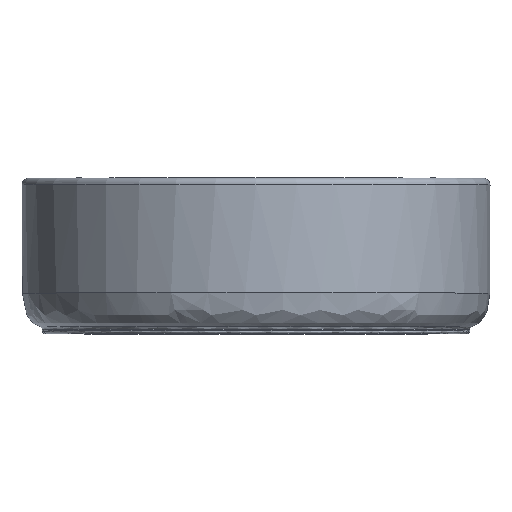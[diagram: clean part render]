
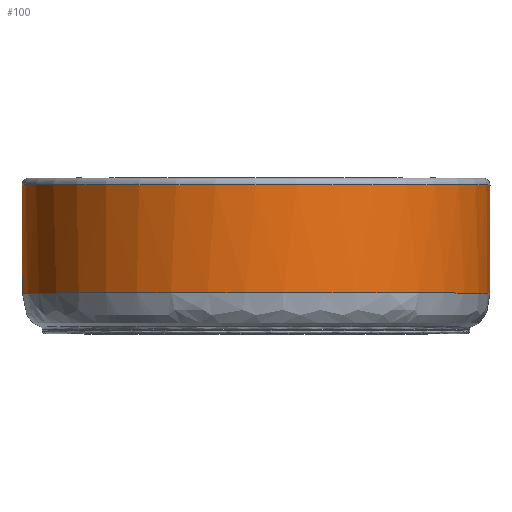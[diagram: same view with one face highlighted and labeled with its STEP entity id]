
A CAD part, top view. The second image highlights one B-rep face of the part: STEP entity #100.
In plain terms, the highlighted cylindrical face has radius 173 mm (diameter 346 mm), a full revolution.
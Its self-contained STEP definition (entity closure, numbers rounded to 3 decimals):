
#12 = CARTESIAN_POINT ( 'NONE',  ( -171.885, 29., 22.645 ) ) ;
#35 = VERTEX_POINT ( 'NONE', #608 ) ;
#47 = CARTESIAN_POINT ( 'NONE',  ( -11.323, 29., 173. ) ) ;
#73 = CARTESIAN_POINT ( 'NONE',  ( 167.467, 29., 44.856 ) ) ;
#85 = CARTESIAN_POINT ( 'NONE',  ( 114.323, 29., 130.336 ) ) ;
#86 = B_SPLINE_CURVE_WITH_KNOTS ( 'NONE', 3,
 ( #813, #965, #2324, #2297, #1392, #2487, #1583, #368, #620, #200, #392, #2109, #584, #380, #1734, #1167, #1931, #1748, #12, #791, #826, #479, #1254, #864, #426, #1202, #1443, #1634, #2182, #1969, #2395, #237, #47, #2165, #1215, #1608, #2368, #1431, #645, #452, #85, #671, #1039, #1994, #264, #1807, #73, #1622, #2382, #2196, #2209, #890, #149, #137, #1658, #125, #2472, #914, #1857, #2422, #724, #712, #1493, #160, #2257, #1115 ),
 .UNSPECIFIED., .T., .F.,
 ( 4, 2, 2, 2, 2, 2, 2, 2, 2, 2, 2, 2, 2, 2, 2, 2, 2, 2, 2, 2, 2, 2, 2, 2, 2, 2, 2, 2, 2, 2, 2, 2, 4 ),
 ( 0., 0.031, 0.063, 0.094, 0.125, 0.156, 0.188, 0.219, 0.25, 0.281, 0.313, 0.344, 0.375, 0.406, 0.437, 0.469, 0.5, 0.531, 0.562, 0.594, 0.625, 0.656, 0.687, 0.719, 0.75, 0.781, 0.812, 0.844, 0.875, 0.906, 0.938, 0.969, 1. ),
 .UNSPECIFIED. ) ;
#100 = ADVANCED_FACE ( 'NONE', ( #2407, #684 ), #1279, .T. ) ;
#112 = DIRECTION ( 'NONE',  ( 0., -1., 0. ) ) ;
#125 = CARTESIAN_POINT ( 'NONE',  ( 137.554, 29., -105.528 ) ) ;
#137 = CARTESIAN_POINT ( 'NONE',  ( 155.498, 29., -76.665 ) ) ;
#149 = CARTESIAN_POINT ( 'NONE',  ( 164.164, 29., -55.743 ) ) ;
#160 = CARTESIAN_POINT ( 'NONE',  ( 22.645, 29., -171.885 ) ) ;
#200 = CARTESIAN_POINT ( 'NONE',  ( -130.336, 29., -114.323 ) ) ;
#237 = CARTESIAN_POINT ( 'NONE',  ( -22.645, 29., 171.885 ) ) ;
#238 = CARTESIAN_POINT ( 'NONE',  ( 0., 109., 173. ) ) ;
#264 = CARTESIAN_POINT ( 'NONE',  ( 155.498, 29., 76.665 ) ) ;
#368 = CARTESIAN_POINT ( 'NONE',  ( -105.528, 29., -137.554 ) ) ;
#380 = CARTESIAN_POINT ( 'NONE',  ( -164.164, 29., -55.743 ) ) ;
#392 = CARTESIAN_POINT ( 'NONE',  ( -137.554, 29., -105.528 ) ) ;
#406 = CARTESIAN_POINT ( 'NONE',  ( 0., 109., 0. ) ) ;
#426 = CARTESIAN_POINT ( 'NONE',  ( -130.336, 29., 114.323 ) ) ;
#452 = CARTESIAN_POINT ( 'NONE',  ( 105.528, 29., 137.554 ) ) ;
#479 = CARTESIAN_POINT ( 'NONE',  ( -155.498, 29., 76.665 ) ) ;
#584 = CARTESIAN_POINT ( 'NONE',  ( -155.498, 29., -76.665 ) ) ;
#608 = CARTESIAN_POINT ( 'NONE',  ( 0., 29., -173. ) ) ;
#620 = CARTESIAN_POINT ( 'NONE',  ( -114.323, 29., -130.336 ) ) ;
#645 = CARTESIAN_POINT ( 'NONE',  ( 86.699, 29., 150.135 ) ) ;
#671 = CARTESIAN_POINT ( 'NONE',  ( 130.336, 29., 114.323 ) ) ;
#684 = FACE_OUTER_BOUND ( 'NONE', #2421, .T. ) ;
#698 = ORIENTED_EDGE ( 'NONE', *, *, #953, .T. ) ;
#712 = CARTESIAN_POINT ( 'NONE',  ( 55.743, 29., -164.164 ) ) ;
#724 = CARTESIAN_POINT ( 'NONE',  ( 76.665, 29., -155.498 ) ) ;
#791 = CARTESIAN_POINT ( 'NONE',  ( -167.467, 29., 44.856 ) ) ;
#813 = CARTESIAN_POINT ( 'NONE',  ( 0., 29., -173. ) ) ;
#826 = CARTESIAN_POINT ( 'NONE',  ( -164.164, 29., 55.743 ) ) ;
#864 = CARTESIAN_POINT ( 'NONE',  ( -137.554, 29., 105.528 ) ) ;
#889 = DIRECTION ( 'NONE',  ( 0., 0., -1. ) ) ;
#890 = CARTESIAN_POINT ( 'NONE',  ( 167.467, 29., -44.856 ) ) ;
#902 = CARTESIAN_POINT ( 'NONE',  ( 0., 114., 0. ) ) ;
#914 = CARTESIAN_POINT ( 'NONE',  ( 114.323, 29., -130.336 ) ) ;
#953 = EDGE_CURVE ( 'NONE', #35, #35, #86, .T. ) ;
#965 = CARTESIAN_POINT ( 'NONE',  ( -11.323, 29., -173. ) ) ;
#978 = AXIS2_PLACEMENT_3D ( 'NONE', #406, #1784, #994 ) ;
#994 = DIRECTION ( 'NONE',  ( 0., 0., 1. ) ) ;
#1039 = CARTESIAN_POINT ( 'NONE',  ( 137.554, 29., 105.528 ) ) ;
#1077 = EDGE_CURVE ( 'NONE', #1393, #1393, #1380, .T. ) ;
#1096 = AXIS2_PLACEMENT_3D ( 'NONE', #902, #112, #889 ) ;
#1115 = CARTESIAN_POINT ( 'NONE',  ( 0., 29., -173. ) ) ;
#1167 = CARTESIAN_POINT ( 'NONE',  ( -171.885, 29., -22.645 ) ) ;
#1202 = CARTESIAN_POINT ( 'NONE',  ( -114.323, 29., 130.336 ) ) ;
#1215 = CARTESIAN_POINT ( 'NONE',  ( 22.645, 29., 171.885 ) ) ;
#1254 = CARTESIAN_POINT ( 'NONE',  ( -150.135, 29., 86.699 ) ) ;
#1279 = CYLINDRICAL_SURFACE ( 'NONE', #1096, 173. ) ;
#1380 = CIRCLE ( 'NONE', #978, 173. ) ;
#1392 = CARTESIAN_POINT ( 'NONE',  ( -55.743, 29., -164.164 ) ) ;
#1393 = VERTEX_POINT ( 'NONE', #238 ) ;
#1431 = CARTESIAN_POINT ( 'NONE',  ( 76.665, 29., 155.498 ) ) ;
#1443 = CARTESIAN_POINT ( 'NONE',  ( -105.528, 29., 137.554 ) ) ;
#1493 = CARTESIAN_POINT ( 'NONE',  ( 44.856, 29., -167.467 ) ) ;
#1583 = CARTESIAN_POINT ( 'NONE',  ( -86.699, 29., -150.135 ) ) ;
#1608 = CARTESIAN_POINT ( 'NONE',  ( 44.856, 29., 167.467 ) ) ;
#1622 = CARTESIAN_POINT ( 'NONE',  ( 171.885, 29., 22.645 ) ) ;
#1634 = CARTESIAN_POINT ( 'NONE',  ( -86.699, 29., 150.135 ) ) ;
#1657 = ORIENTED_EDGE ( 'NONE', *, *, #1077, .T. ) ;
#1658 = CARTESIAN_POINT ( 'NONE',  ( 150.135, 29., -86.699 ) ) ;
#1734 = CARTESIAN_POINT ( 'NONE',  ( -167.467, 29., -44.856 ) ) ;
#1748 = CARTESIAN_POINT ( 'NONE',  ( -173., 29., 11.323 ) ) ;
#1784 = DIRECTION ( 'NONE',  ( 0., -1., 0. ) ) ;
#1807 = CARTESIAN_POINT ( 'NONE',  ( 164.164, 29., 55.743 ) ) ;
#1855 = EDGE_LOOP ( 'NONE', ( #1657 ) ) ;
#1857 = CARTESIAN_POINT ( 'NONE',  ( 105.528, 29., -137.554 ) ) ;
#1931 = CARTESIAN_POINT ( 'NONE',  ( -173., 29., -11.323 ) ) ;
#1969 = CARTESIAN_POINT ( 'NONE',  ( -55.743, 29., 164.164 ) ) ;
#1994 = CARTESIAN_POINT ( 'NONE',  ( 150.135, 29., 86.699 ) ) ;
#2109 = CARTESIAN_POINT ( 'NONE',  ( -150.135, 29., -86.699 ) ) ;
#2165 = CARTESIAN_POINT ( 'NONE',  ( 11.323, 29., 173. ) ) ;
#2182 = CARTESIAN_POINT ( 'NONE',  ( -76.665, 29., 155.498 ) ) ;
#2196 = CARTESIAN_POINT ( 'NONE',  ( 173., 29., -11.323 ) ) ;
#2209 = CARTESIAN_POINT ( 'NONE',  ( 171.885, 29., -22.645 ) ) ;
#2257 = CARTESIAN_POINT ( 'NONE',  ( 11.323, 29., -173. ) ) ;
#2297 = CARTESIAN_POINT ( 'NONE',  ( -44.856, 29., -167.467 ) ) ;
#2324 = CARTESIAN_POINT ( 'NONE',  ( -22.645, 29., -171.885 ) ) ;
#2368 = CARTESIAN_POINT ( 'NONE',  ( 55.743, 29., 164.164 ) ) ;
#2382 = CARTESIAN_POINT ( 'NONE',  ( 173., 29., 11.323 ) ) ;
#2395 = CARTESIAN_POINT ( 'NONE',  ( -44.856, 29., 167.467 ) ) ;
#2407 = FACE_OUTER_BOUND ( 'NONE', #1855, .T. ) ;
#2421 = EDGE_LOOP ( 'NONE', ( #698 ) ) ;
#2422 = CARTESIAN_POINT ( 'NONE',  ( 86.699, 29., -150.135 ) ) ;
#2472 = CARTESIAN_POINT ( 'NONE',  ( 130.336, 29., -114.323 ) ) ;
#2487 = CARTESIAN_POINT ( 'NONE',  ( -76.665, 29., -155.498 ) ) ;
